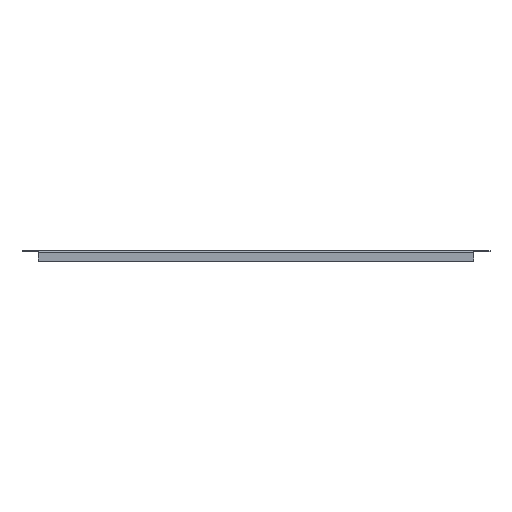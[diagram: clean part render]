
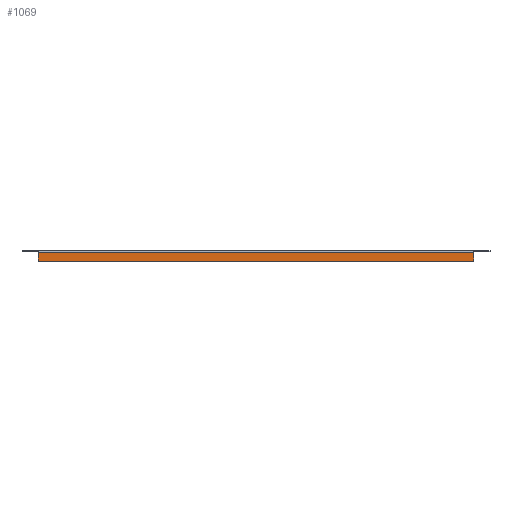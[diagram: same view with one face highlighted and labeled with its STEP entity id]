
A CAD part, front view. The second image highlights one B-rep face of the part: STEP entity #1069.
In plain terms, the highlighted planar face has unit normal (0, -1, 0).
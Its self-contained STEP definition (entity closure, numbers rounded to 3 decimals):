
#42 = ORIENTED_EDGE ( 'NONE', *, *, #1102, .F. ) ;
#44 = ORIENTED_EDGE ( 'NONE', *, *, #1112, .F. ) ;
#45 = ORIENTED_EDGE ( 'NONE', *, *, #1115, .F. ) ;
#47 = ORIENTED_EDGE ( 'NONE', *, *, #1121, .F. ) ;
#168 = EDGE_LOOP ( 'NONE', ( #47, #45, #44, #42 ) ) ;
#254 = AXIS2_PLACEMENT_3D ( 'NONE', #800, #799, #798 ) ;
#261 = FACE_OUTER_BOUND ( 'NONE', #168, .T. ) ;
#297 = LINE ( 'NONE', #298, #612 ) ;
#298 = CARTESIAN_POINT ( 'NONE',  ( 309.5, -99.5, -13.8 ) ) ;
#299 = DIRECTION ( 'NONE',  ( -1., 0., 0. ) ) ;
#306 = LINE ( 'NONE', #307, #615 ) ;
#307 = CARTESIAN_POINT ( 'NONE',  ( -309.5, -99.5, -13.8 ) ) ;
#308 = DIRECTION ( 'NONE',  ( 0., 0., 1. ) ) ;
#324 = LINE ( 'NONE', #325, #622 ) ;
#325 = CARTESIAN_POINT ( 'NONE',  ( 309.5, -99.5, -1.2 ) ) ;
#326 = DIRECTION ( 'NONE',  ( 1., 0., 0. ) ) ;
#552 = CARTESIAN_POINT ( 'NONE',  ( 309.5, -99.5, 0. ) ) ;
#554 = LINE ( 'NONE', #552, #602 ) ;
#565 = DIRECTION ( 'NONE',  ( 0., 0., -1. ) ) ;
#602 = VECTOR ( 'NONE', #565, 1000. ) ;
#612 = VECTOR ( 'NONE', #299, 1000. ) ;
#615 = VECTOR ( 'NONE', #308, 1000. ) ;
#622 = VECTOR ( 'NONE', #326, 1000. ) ;
#798 = DIRECTION ( 'NONE',  ( 0., 0., 1. ) ) ;
#799 = DIRECTION ( 'NONE',  ( 0., 1., 0. ) ) ;
#800 = CARTESIAN_POINT ( 'NONE',  ( 309.5, -99.5, 0. ) ) ;
#801 = PLANE ( 'NONE',  #254 ) ;
#900 = CARTESIAN_POINT ( 'NONE',  ( 309.5, -99.5, -1.2 ) ) ;
#903 = CARTESIAN_POINT ( 'NONE',  ( -309.5, -99.5, -1.2 ) ) ;
#905 = CARTESIAN_POINT ( 'NONE',  ( 309.5, -99.5, -13.8 ) ) ;
#906 = CARTESIAN_POINT ( 'NONE',  ( -309.5, -99.5, -13.8 ) ) ;
#946 = VERTEX_POINT ( 'NONE', #906 ) ;
#947 = VERTEX_POINT ( 'NONE', #905 ) ;
#949 = VERTEX_POINT ( 'NONE', #903 ) ;
#952 = VERTEX_POINT ( 'NONE', #900 ) ;
#1069 = ADVANCED_FACE ( 'NONE', ( #261 ), #801, .F. ) ;
#1102 = EDGE_CURVE ( 'NONE', #952, #947, #554, .T. ) ;
#1112 = EDGE_CURVE ( 'NONE', #947, #946, #297, .T. ) ;
#1115 = EDGE_CURVE ( 'NONE', #946, #949, #306, .T. ) ;
#1121 = EDGE_CURVE ( 'NONE', #949, #952, #324, .T. ) ;
